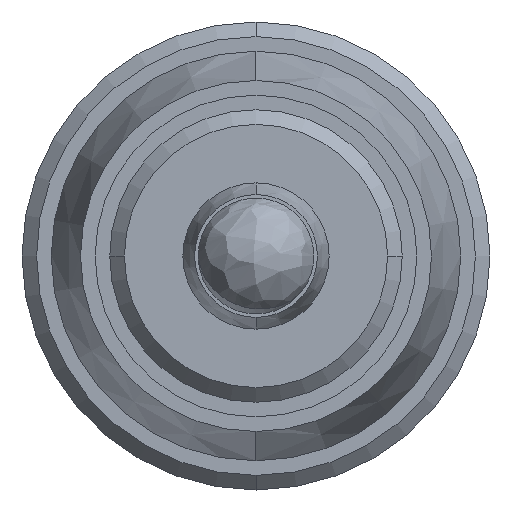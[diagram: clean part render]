
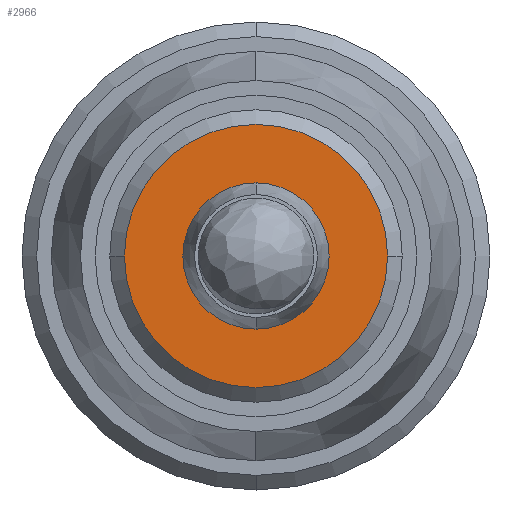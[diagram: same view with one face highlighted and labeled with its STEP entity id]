
A CAD part, left-side view. The second image highlights one B-rep face of the part: STEP entity #2966.
In plain terms, the highlighted planar face has unit normal (-1, 0, 0).
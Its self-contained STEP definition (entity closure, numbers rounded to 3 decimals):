
#2846 = VERTEX_POINT ( 'NONE', #5763 ) ;
#2848 = EDGE_CURVE ( 'NONE', #2849, #2846, #5762, .T. ) ;
#2849 = VERTEX_POINT ( 'NONE', #5757 ) ;
#2891 = EDGE_CURVE ( 'NONE', #2892, #2893, #5873, .T. ) ;
#2892 = VERTEX_POINT ( 'NONE', #5869 ) ;
#2893 = VERTEX_POINT ( 'NONE', #5868 ) ;
#2965 = EDGE_CURVE ( 'NONE', #2846, #2849, #6050, .T. ) ;
#2966 = ADVANCED_FACE ( 'NONE', ( #6045, #6044 ), #6043, .T. ) ;
#2967 = EDGE_LOOP ( 'NONE', ( #2968, #2969 ) ) ;
#2968 = ORIENTED_EDGE ( 'NONE', *, *, #2891, .F. ) ;
#2969 = ORIENTED_EDGE ( 'NONE', *, *, #2970, .F. ) ;
#2970 = EDGE_CURVE ( 'NONE', #2893, #2892, #6036, .T. ) ;
#2971 = EDGE_LOOP ( 'NONE', ( #2972, #2973 ) ) ;
#2972 = ORIENTED_EDGE ( 'NONE', *, *, #2848, .T. ) ;
#2973 = ORIENTED_EDGE ( 'NONE', *, *, #2965, .T. ) ;
#5757 = CARTESIAN_POINT ( 'NONE',  ( -26.181, 6.617, 0. ) ) ;
#5758 = DIRECTION ( 'NONE',  ( 0., 1., 0. ) ) ;
#5759 = DIRECTION ( 'NONE',  ( 1., 0., 0. ) ) ;
#5760 = CARTESIAN_POINT ( 'NONE',  ( -26.181, 4.117, 0. ) ) ;
#5761 = AXIS2_PLACEMENT_3D ( 'NONE', #5760, #5759, #5758 ) ;
#5762 = CIRCLE ( 'NONE', #5761, 2.5 ) ;
#5763 = CARTESIAN_POINT ( 'NONE',  ( -26.181, 1.617, 0. ) ) ;
#5868 = CARTESIAN_POINT ( 'NONE',  ( -26.181, -0.383, 0. ) ) ;
#5869 = CARTESIAN_POINT ( 'NONE',  ( -26.181, 8.617, 0. ) ) ;
#5870 = DIRECTION ( 'NONE',  ( 0., 1., 0. ) ) ;
#5871 = DIRECTION ( 'NONE',  ( 1., 0., 0. ) ) ;
#5872 = AXIS2_PLACEMENT_3D ( 'NONE', #5879, #5871, #5870 ) ;
#5873 = CIRCLE ( 'NONE', #5872, 4.5 ) ;
#5879 = CARTESIAN_POINT ( 'NONE',  ( -26.181, 4.117, 0. ) ) ;
#6032 = DIRECTION ( 'NONE',  ( 0., 1., 0. ) ) ;
#6033 = DIRECTION ( 'NONE',  ( 1., 0., 0. ) ) ;
#6034 = CARTESIAN_POINT ( 'NONE',  ( -26.181, 4.117, 0. ) ) ;
#6035 = AXIS2_PLACEMENT_3D ( 'NONE', #6034, #6033, #6032 ) ;
#6036 = CIRCLE ( 'NONE', #6035, 4.5 ) ;
#6039 = DIRECTION ( 'NONE',  ( 0., -1., 0. ) ) ;
#6040 = DIRECTION ( 'NONE',  ( -1., 0., 0. ) ) ;
#6041 = CARTESIAN_POINT ( 'NONE',  ( -26.181, 0.495, 0.972 ) ) ;
#6042 = AXIS2_PLACEMENT_3D ( 'NONE', #6041, #6040, #6039 ) ;
#6043 = PLANE ( 'NONE',  #6042 ) ;
#6044 = FACE_BOUND ( 'NONE', #2971, .T. ) ;
#6045 = FACE_OUTER_BOUND ( 'NONE', #2967, .T. ) ;
#6046 = DIRECTION ( 'NONE',  ( 0., 1., 0. ) ) ;
#6047 = DIRECTION ( 'NONE',  ( 1., 0., 0. ) ) ;
#6048 = CARTESIAN_POINT ( 'NONE',  ( -26.181, 4.117, 0. ) ) ;
#6049 = AXIS2_PLACEMENT_3D ( 'NONE', #6048, #6047, #6046 ) ;
#6050 = CIRCLE ( 'NONE', #6049, 2.5 ) ;
